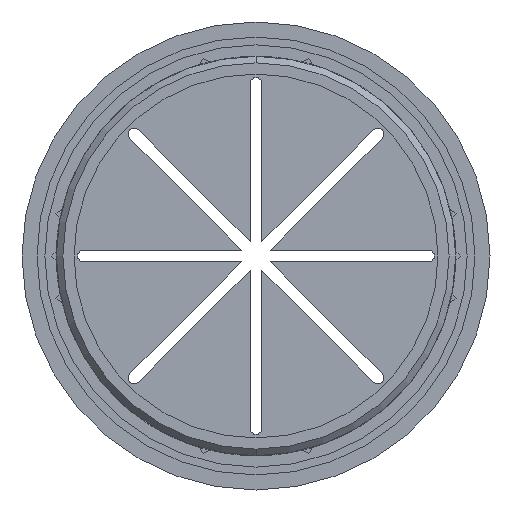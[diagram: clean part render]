
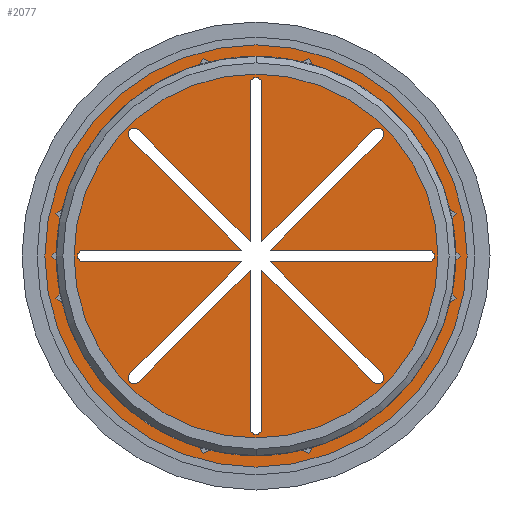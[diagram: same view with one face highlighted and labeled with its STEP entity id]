
A CAD part, front view. The second image highlights one B-rep face of the part: STEP entity #2077.
In plain terms, the highlighted planar face has unit normal (0, -1, 0).
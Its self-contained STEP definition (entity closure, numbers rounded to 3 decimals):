
#1573=CARTESIAN_POINT('',(26.35,0.5,0.));
#1574=DIRECTION('',(0.,1.,0.));
#1575=DIRECTION('',(0.,0.,1.));
#1576=AXIS2_PLACEMENT_3D('',#1573,#1574,#1575);
#1583=DIRECTION('',(-1.,0.,0.));
#1584=VECTOR('',#1583,24.177);
#1585=CARTESIAN_POINT('',(26.35,0.5,-0.9));
#1586=LINE('',#1585,#1584);
#1587=DIRECTION('',(1.,0.,0.));
#1588=VECTOR('',#1587,24.177);
#1589=CARTESIAN_POINT('',(2.173,0.5,0.9));
#1590=LINE('',#1589,#1588);
#1591=DIRECTION('',(-0.707,0.,-0.707));
#1592=VECTOR('',#1591,24.177);
#1593=CARTESIAN_POINT('',(19.269,0.5,17.996));
#1594=LINE('',#1593,#1592);
#1595=DIRECTION('',(0.707,0.,0.707));
#1596=VECTOR('',#1595,24.177);
#1597=CARTESIAN_POINT('',(0.9,0.5,2.173));
#1598=LINE('',#1597,#1596);
#1599=DIRECTION('',(0.,0.,-1.));
#1600=VECTOR('',#1599,24.177);
#1601=CARTESIAN_POINT('',(0.9,0.5,26.35));
#1602=LINE('',#1601,#1600);
#1603=DIRECTION('',(0.,0.,1.));
#1604=VECTOR('',#1603,24.177);
#1605=CARTESIAN_POINT('',(-0.9,0.5,2.173));
#1606=LINE('',#1605,#1604);
#1607=DIRECTION('',(0.707,0.,-0.707));
#1608=VECTOR('',#1607,24.177);
#1609=CARTESIAN_POINT('',(-17.996,0.5,19.269));
#1610=LINE('',#1609,#1608);
#1611=DIRECTION('',(-0.707,0.,0.707));
#1612=VECTOR('',#1611,24.177);
#1613=CARTESIAN_POINT('',(-2.173,0.5,0.9));
#1614=LINE('',#1613,#1612);
#1615=DIRECTION('',(1.,0.,0.));
#1616=VECTOR('',#1615,24.177);
#1617=CARTESIAN_POINT('',(-26.35,0.5,0.9));
#1618=LINE('',#1617,#1616);
#1619=DIRECTION('',(-1.,0.,0.));
#1620=VECTOR('',#1619,24.177);
#1621=CARTESIAN_POINT('',(-2.173,0.5,-0.9));
#1622=LINE('',#1621,#1620);
#1623=DIRECTION('',(0.707,0.,0.707));
#1624=VECTOR('',#1623,24.177);
#1625=CARTESIAN_POINT('',(-19.269,0.5,-17.996));
#1626=LINE('',#1625,#1624);
#1627=DIRECTION('',(-0.707,0.,-0.707));
#1628=VECTOR('',#1627,24.177);
#1629=CARTESIAN_POINT('',(-0.9,0.5,-2.173));
#1630=LINE('',#1629,#1628);
#1631=DIRECTION('',(0.,0.,1.));
#1632=VECTOR('',#1631,24.177);
#1633=CARTESIAN_POINT('',(-0.9,0.5,-26.35));
#1634=LINE('',#1633,#1632);
#1635=DIRECTION('',(0.,0.,-1.));
#1636=VECTOR('',#1635,24.177);
#1637=CARTESIAN_POINT('',(0.9,0.5,-2.173));
#1638=LINE('',#1637,#1636);
#1639=DIRECTION('',(-0.707,0.,0.707));
#1640=VECTOR('',#1639,24.177);
#1641=CARTESIAN_POINT('',(17.996,0.5,-19.269));
#1642=LINE('',#1641,#1640);
#1643=DIRECTION('',(0.707,0.,-0.707));
#1644=VECTOR('',#1643,24.177);
#1645=CARTESIAN_POINT('',(2.173,0.5,-0.9));
#1646=LINE('',#1645,#1644);
#1647=CARTESIAN_POINT('',(0.,0.5,0.));
#1648=DIRECTION('',(0.,1.,0.));
#1649=DIRECTION('',(0.,0.,-1.));
#1650=AXIS2_PLACEMENT_3D('',#1647,#1648,#1649);
#1652=CARTESIAN_POINT('',(0.,0.5,0.));
#1653=DIRECTION('',(0.,1.,0.));
#1654=DIRECTION('',(0.,0.,1.));
#1655=AXIS2_PLACEMENT_3D('',#1652,#1653,#1654);
#1669=CARTESIAN_POINT('',(18.632,0.5,-18.632));
#1670=DIRECTION('',(0.,1.,0.));
#1671=DIRECTION('',(0.707,0.,0.707));
#1672=AXIS2_PLACEMENT_3D('',#1669,#1670,#1671);
#1696=CARTESIAN_POINT('',(0.,0.5,-26.35));
#1697=DIRECTION('',(0.,1.,0.));
#1698=DIRECTION('',(1.,0.,0.));
#1699=AXIS2_PLACEMENT_3D('',#1696,#1697,#1698);
#1713=CARTESIAN_POINT('',(-18.632,0.5,-18.632));
#1714=DIRECTION('',(0.,1.,0.));
#1715=DIRECTION('',(0.707,0.,-0.707));
#1716=AXIS2_PLACEMENT_3D('',#1713,#1714,#1715);
#1740=CARTESIAN_POINT('',(-26.35,0.5,0.));
#1741=DIRECTION('',(0.,1.,0.));
#1742=DIRECTION('',(0.,0.,-1.));
#1743=AXIS2_PLACEMENT_3D('',#1740,#1741,#1742);
#1757=CARTESIAN_POINT('',(-18.632,0.5,18.632));
#1758=DIRECTION('',(0.,1.,0.));
#1759=DIRECTION('',(-0.707,0.,-0.707));
#1760=AXIS2_PLACEMENT_3D('',#1757,#1758,#1759);
#1784=CARTESIAN_POINT('',(0.,0.5,26.35));
#1785=DIRECTION('',(0.,1.,0.));
#1786=DIRECTION('',(-1.,0.,0.));
#1787=AXIS2_PLACEMENT_3D('',#1784,#1785,#1786);
#1806=CARTESIAN_POINT('',(18.632,0.5,18.632));
#1807=DIRECTION('',(0.,1.,0.));
#1808=DIRECTION('',(-0.707,0.,0.707));
#1809=AXIS2_PLACEMENT_3D('',#1806,#1807,#1808);
#1823=CARTESIAN_POINT('',(-0.9,0.5,-2.173));
#1825=VERTEX_POINT('',#1823);
#1827=CARTESIAN_POINT('',(-2.173,0.5,-0.9));
#1829=VERTEX_POINT('',#1827);
#1831=CARTESIAN_POINT('',(-2.173,0.5,0.9));
#1833=VERTEX_POINT('',#1831);
#1835=CARTESIAN_POINT('',(-0.9,0.5,2.173));
#1837=VERTEX_POINT('',#1835);
#1839=CARTESIAN_POINT('',(0.9,0.5,2.173));
#1841=VERTEX_POINT('',#1839);
#1843=CARTESIAN_POINT('',(2.173,0.5,0.9));
#1845=VERTEX_POINT('',#1843);
#1847=CARTESIAN_POINT('',(2.173,0.5,-0.9));
#1849=VERTEX_POINT('',#1847);
#1851=CARTESIAN_POINT('',(0.9,0.5,-2.173));
#1853=VERTEX_POINT('',#1851);
#1855=CARTESIAN_POINT('',(19.269,0.5,-17.996));
#1857=VERTEX_POINT('',#1855);
#1859=CARTESIAN_POINT('',(17.996,0.5,-19.269));
#1861=VERTEX_POINT('',#1859);
#1863=CARTESIAN_POINT('',(26.35,0.5,0.9));
#1865=VERTEX_POINT('',#1863);
#1867=CARTESIAN_POINT('',(26.35,0.5,-0.9));
#1869=VERTEX_POINT('',#1867);
#1872=CARTESIAN_POINT('',(-0.9,0.5,-26.35));
#1874=VERTEX_POINT('',#1872);
#1876=CARTESIAN_POINT('',(0.9,0.5,-26.35));
#1878=VERTEX_POINT('',#1876);
#1879=CARTESIAN_POINT('',(-17.996,0.5,-19.269));
#1881=VERTEX_POINT('',#1879);
#1883=CARTESIAN_POINT('',(-19.269,0.5,-17.996));
#1885=VERTEX_POINT('',#1883);
#1888=CARTESIAN_POINT('',(-26.35,0.5,0.9));
#1890=VERTEX_POINT('',#1888);
#1892=CARTESIAN_POINT('',(-26.35,0.5,-0.9));
#1894=VERTEX_POINT('',#1892);
#1895=CARTESIAN_POINT('',(-19.269,0.5,17.996));
#1897=VERTEX_POINT('',#1895);
#1899=CARTESIAN_POINT('',(-17.996,0.5,19.269));
#1901=VERTEX_POINT('',#1899);
#1904=CARTESIAN_POINT('',(0.9,0.5,26.35));
#1906=VERTEX_POINT('',#1904);
#1908=CARTESIAN_POINT('',(-0.9,0.5,26.35));
#1910=VERTEX_POINT('',#1908);
#1912=CARTESIAN_POINT('',(19.269,0.5,17.996));
#1914=VERTEX_POINT('',#1912);
#1916=CARTESIAN_POINT('',(17.996,0.5,19.269));
#1918=VERTEX_POINT('',#1916);
#1923=CARTESIAN_POINT('',(0.,0.5,-32.25));
#1924=CARTESIAN_POINT('',(0.,0.5,32.25));
#1925=VERTEX_POINT('',#1923);
#1926=VERTEX_POINT('',#1924);
#2018=CARTESIAN_POINT('',(0.,0.5,0.));
#2019=DIRECTION('',(0.,-1.,0.));
#2020=DIRECTION('',(1.,0.,0.));
#2021=AXIS2_PLACEMENT_3D('',#2018,#2019,#2020);
#2022=PLANE('',#2021);
#2024=ORIENTED_EDGE('',*,*,#2023,.T.);
#2026=ORIENTED_EDGE('',*,*,#2025,.T.);
#2027=EDGE_LOOP('',(#2024,#2026));
#2028=FACE_OUTER_BOUND('',#2027,.F.);
#2030=ORIENTED_EDGE('',*,*,#2029,.F.);
#2031=ORIENTED_EDGE('',*,*,#2010,.F.);
#2032=ORIENTED_EDGE('',*,*,#1999,.F.);
#2034=ORIENTED_EDGE('',*,*,#2033,.F.);
#2036=ORIENTED_EDGE('',*,*,#2035,.F.);
#2038=ORIENTED_EDGE('',*,*,#2037,.F.);
#2040=ORIENTED_EDGE('',*,*,#2039,.F.);
#2042=ORIENTED_EDGE('',*,*,#2041,.F.);
#2044=ORIENTED_EDGE('',*,*,#2043,.F.);
#2046=ORIENTED_EDGE('',*,*,#2045,.F.);
#2048=ORIENTED_EDGE('',*,*,#2047,.F.);
#2050=ORIENTED_EDGE('',*,*,#2049,.F.);
#2052=ORIENTED_EDGE('',*,*,#2051,.F.);
#2054=ORIENTED_EDGE('',*,*,#2053,.F.);
#2056=ORIENTED_EDGE('',*,*,#2055,.F.);
#2058=ORIENTED_EDGE('',*,*,#2057,.F.);
#2060=ORIENTED_EDGE('',*,*,#2059,.F.);
#2062=ORIENTED_EDGE('',*,*,#2061,.F.);
#2064=ORIENTED_EDGE('',*,*,#2063,.F.);
#2066=ORIENTED_EDGE('',*,*,#2065,.F.);
#2068=ORIENTED_EDGE('',*,*,#2067,.F.);
#2070=ORIENTED_EDGE('',*,*,#2069,.F.);
#2072=ORIENTED_EDGE('',*,*,#2071,.F.);
#2074=ORIENTED_EDGE('',*,*,#2073,.F.);
#2075=EDGE_LOOP('',(#2030,#2031,#2032,#2034,#2036,#2038,#2040,#2042,#2044,#2046,
#2048,#2050,#2052,#2054,#2056,#2058,#2060,#2062,#2064,#2066,#2068,#2070,#2072,
#2074));
#2076=FACE_BOUND('',#2075,.F.);
#2077=ADVANCED_FACE('',(#2028,#2076),#2022,.T.);
#1577=CIRCLE('',#1576,0.9);
#1651=CIRCLE('',#1650,32.25);
#1656=CIRCLE('',#1655,32.25);
#1673=CIRCLE('',#1672,0.9);
#1700=CIRCLE('',#1699,0.9);
#1717=CIRCLE('',#1716,0.9);
#1744=CIRCLE('',#1743,0.9);
#1761=CIRCLE('',#1760,0.9);
#1788=CIRCLE('',#1787,0.9);
#1810=CIRCLE('',#1809,0.9);
#1999=EDGE_CURVE('',#1845,#1865,#1590,.T.);
#2010=EDGE_CURVE('',#1865,#1869,#1577,.T.);
#2023=EDGE_CURVE('',#1925,#1926,#1651,.T.);
#2025=EDGE_CURVE('',#1926,#1925,#1656,.T.);
#2029=EDGE_CURVE('',#1869,#1849,#1586,.T.);
#2033=EDGE_CURVE('',#1914,#1845,#1594,.T.);
#2035=EDGE_CURVE('',#1918,#1914,#1810,.T.);
#2037=EDGE_CURVE('',#1841,#1918,#1598,.T.);
#2039=EDGE_CURVE('',#1906,#1841,#1602,.T.);
#2041=EDGE_CURVE('',#1910,#1906,#1788,.T.);
#2043=EDGE_CURVE('',#1837,#1910,#1606,.T.);
#2045=EDGE_CURVE('',#1901,#1837,#1610,.T.);
#2047=EDGE_CURVE('',#1897,#1901,#1761,.T.);
#2049=EDGE_CURVE('',#1833,#1897,#1614,.T.);
#2051=EDGE_CURVE('',#1890,#1833,#1618,.T.);
#2053=EDGE_CURVE('',#1894,#1890,#1744,.T.);
#2055=EDGE_CURVE('',#1829,#1894,#1622,.T.);
#2057=EDGE_CURVE('',#1885,#1829,#1626,.T.);
#2059=EDGE_CURVE('',#1881,#1885,#1717,.T.);
#2061=EDGE_CURVE('',#1825,#1881,#1630,.T.);
#2063=EDGE_CURVE('',#1874,#1825,#1634,.T.);
#2065=EDGE_CURVE('',#1878,#1874,#1700,.T.);
#2067=EDGE_CURVE('',#1853,#1878,#1638,.T.);
#2069=EDGE_CURVE('',#1861,#1853,#1642,.T.);
#2071=EDGE_CURVE('',#1857,#1861,#1673,.T.);
#2073=EDGE_CURVE('',#1849,#1857,#1646,.T.);
